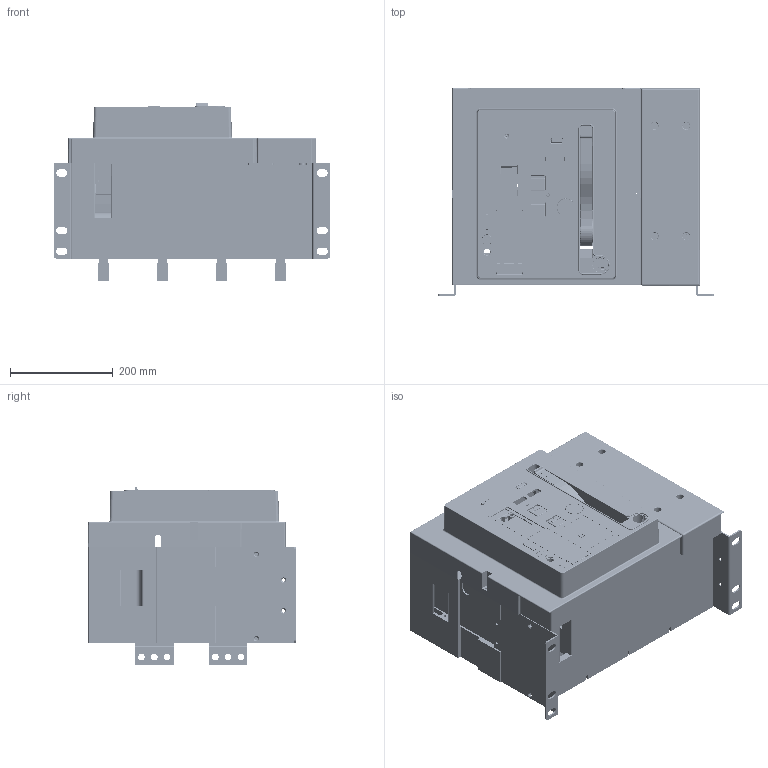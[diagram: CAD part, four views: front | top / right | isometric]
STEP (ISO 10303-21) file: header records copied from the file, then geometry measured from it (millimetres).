
FILE_DESCRIPTION((''),'2;1');
FILE_NAME('HG_10_B06_254V_FIX_ASM_ASM_ASM','2019-03-29T',('HHI'),(''),'PRO/ENGINEER BY PARAMETRIC TECHNOLOGY CORPORATION, 2012453','PRO/ENGINEER BY PARAMETRIC TECHNOLOGY CORPORATION, 2012453','');
FILE_SCHEMA(('CONFIG_CONTROL_DESIGN'));
Products named in the file (27): PRT0403; PRT0404; PRT0405; PRT0406; PRT0407; PRT0408; PRT0409; ASM0037_ASM_ASM; PRT0410; PRT0411; PRT0412; ASM0038_ASM_ASM; PRT0413; PRT0414; ASM0036_ASM_ASM; PRT0415; ASM0035_ASM_ASM; PRT0416; PRT0417; ASM0034_ASM_ASM; PRT0418; B06_254V_FIX_ASM_1_ASM_ASM; PRT0419; PRT0420; PRT0421; ASM0078_ASM; HG_10_B06_254V_FIX_ASM_ASM_ASM
Assembly tree (36 placements, depth 8):
  HG_10_B06_254V_FIX_ASM_ASM_ASM
    ASM0078_ASM
      B06_254V_FIX_ASM_1_ASM_ASM
        ASM0034_ASM_ASM
          PRT0403
          PRT0404
          PRT0405  x4
          ASM0035_ASM_ASM
            ASM0036_ASM_ASM
              ASM0037_ASM_ASM
                PRT0406
                PRT0407
                PRT0408
                PRT0409
              ASM0038_ASM_ASM
                PRT0410
                PRT0411
                PRT0412
              PRT0413
              PRT0414
            PRT0415
          PRT0416
          PRT0417
        PRT0418  x8
      PRT0419
      PRT0420
      PRT0421
Bounding box: 539.4 x 405.08 x 345.83 mm (x, y, z)
Volume: 9528440.1 mm3; surface area: 3476288 mm2
Topology: 29 solids, 35 shells, 7979 faces, 22322 edges, 14530 vertices
Faces by surface type: plane 4937, cylinder 2316, torus 275, extrusion 139, sphere 118, cone 117, bspline 77
Entity records: 252236 total; most frequent: CARTESIAN_POINT 51446, ORIENTED_EDGE 42676, DIRECTION 40797, EDGE_CURVE 21346, VECTOR 15457, LINE 15318, VERTEX_POINT 13958, AXIS2_PLACEMENT_3D 12670
